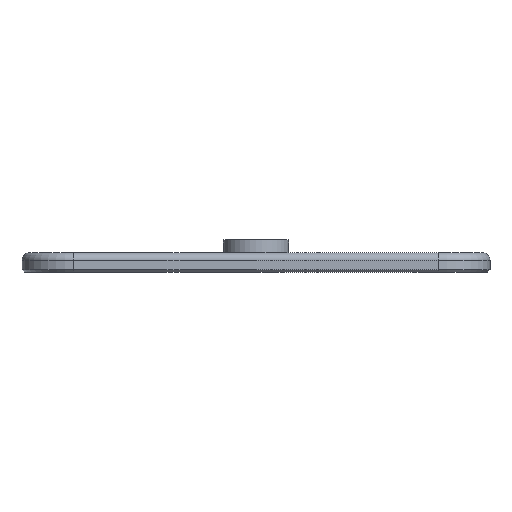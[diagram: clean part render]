
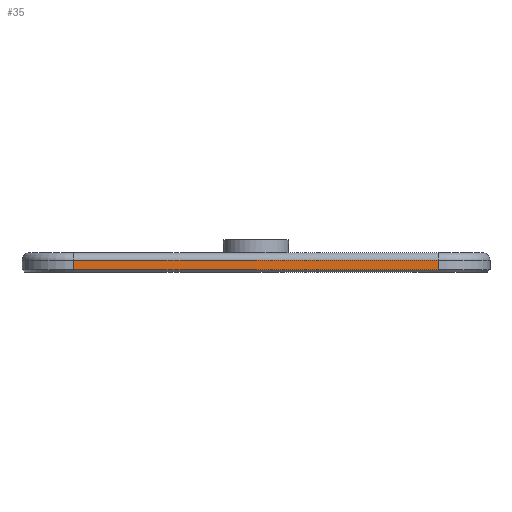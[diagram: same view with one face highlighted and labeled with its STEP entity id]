
A CAD part, left-side view. The second image highlights one B-rep face of the part: STEP entity #35.
In plain terms, the highlighted planar face has unit normal (-1, 0, 0).
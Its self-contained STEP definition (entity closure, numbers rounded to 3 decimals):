
#35 = ADVANCED_FACE('',(#36),#50,.T.);
#36 = FACE_BOUND('',#37,.T.);
#37 = EDGE_LOOP('',(#38,#73,#101,#129));
#38 = ORIENTED_EDGE('',*,*,#39,.T.);
#39 = EDGE_CURVE('',#40,#42,#44,.T.);
#40 = VERTEX_POINT('',#41);
#41 = CARTESIAN_POINT('',(-18.,-14.,0.2));
#42 = VERTEX_POINT('',#43);
#43 = CARTESIAN_POINT('',(-18.,-14.,0.9));
#44 = SURFACE_CURVE('',#45,(#49,#61),.PCURVE_S1.);
#45 = LINE('',#46,#47);
#46 = CARTESIAN_POINT('',(-18.,-14.,0.));
#47 = VECTOR('',#48,1.);
#48 = DIRECTION('',(0.,0.,1.));
#49 = PCURVE('',#50,#55);
#50 = PLANE('',#51);
#51 = AXIS2_PLACEMENT_3D('',#52,#53,#54);
#52 = CARTESIAN_POINT('',(-18.,-14.,0.));
#53 = DIRECTION('',(-1.,0.,0.));
#54 = DIRECTION('',(0.,1.,0.));
#55 = DEFINITIONAL_REPRESENTATION('',(#56),#60);
#56 = LINE('',#57,#58);
#57 = CARTESIAN_POINT('',(0.,0.));
#58 = VECTOR('',#59,1.);
#59 = DIRECTION('',(0.,-1.));
#60 = ( GEOMETRIC_REPRESENTATION_CONTEXT(2) 
PARAMETRIC_REPRESENTATION_CONTEXT() REPRESENTATION_CONTEXT('2D SPACE',''
  ) );
#61 = PCURVE('',#62,#67);
#62 = CYLINDRICAL_SURFACE('',#63,4.);
#63 = AXIS2_PLACEMENT_3D('',#64,#65,#66);
#64 = CARTESIAN_POINT('',(-14.,-14.,0.));
#65 = DIRECTION('',(-0.,-0.,-1.));
#66 = DIRECTION('',(1.,0.,0.));
#67 = DEFINITIONAL_REPRESENTATION('',(#68),#72);
#68 = LINE('',#69,#70);
#69 = CARTESIAN_POINT('',(-3.142,0.));
#70 = VECTOR('',#71,1.);
#71 = DIRECTION('',(-0.,-1.));
#72 = ( GEOMETRIC_REPRESENTATION_CONTEXT(2) 
PARAMETRIC_REPRESENTATION_CONTEXT() REPRESENTATION_CONTEXT('2D SPACE',''
  ) );
#73 = ORIENTED_EDGE('',*,*,#74,.T.);
#74 = EDGE_CURVE('',#42,#75,#77,.T.);
#75 = VERTEX_POINT('',#76);
#76 = CARTESIAN_POINT('',(-18.,14.,0.9));
#77 = SURFACE_CURVE('',#78,(#82,#89),.PCURVE_S1.);
#78 = LINE('',#79,#80);
#79 = CARTESIAN_POINT('',(-18.,-14.,0.9));
#80 = VECTOR('',#81,1.);
#81 = DIRECTION('',(0.,1.,0.));
#82 = PCURVE('',#50,#83);
#83 = DEFINITIONAL_REPRESENTATION('',(#84),#88);
#84 = LINE('',#85,#86);
#85 = CARTESIAN_POINT('',(0.,-0.9));
#86 = VECTOR('',#87,1.);
#87 = DIRECTION('',(1.,0.));
#88 = ( GEOMETRIC_REPRESENTATION_CONTEXT(2) 
PARAMETRIC_REPRESENTATION_CONTEXT() REPRESENTATION_CONTEXT('2D SPACE',''
  ) );
#89 = PCURVE('',#90,#95);
#90 = CYLINDRICAL_SURFACE('',#91,0.6);
#91 = AXIS2_PLACEMENT_3D('',#92,#93,#94);
#92 = CARTESIAN_POINT('',(-17.4,-14.,0.9));
#93 = DIRECTION('',(0.,1.,0.));
#94 = DIRECTION('',(-1.,0.,0.));
#95 = DEFINITIONAL_REPRESENTATION('',(#96),#100);
#96 = LINE('',#97,#98);
#97 = CARTESIAN_POINT('',(0.,0.));
#98 = VECTOR('',#99,1.);
#99 = DIRECTION('',(0.,1.));
#100 = ( GEOMETRIC_REPRESENTATION_CONTEXT(2) 
PARAMETRIC_REPRESENTATION_CONTEXT() REPRESENTATION_CONTEXT('2D SPACE',''
  ) );
#101 = ORIENTED_EDGE('',*,*,#102,.F.);
#102 = EDGE_CURVE('',#103,#75,#105,.T.);
#103 = VERTEX_POINT('',#104);
#104 = CARTESIAN_POINT('',(-18.,14.,0.2));
#105 = SURFACE_CURVE('',#106,(#110,#117),.PCURVE_S1.);
#106 = LINE('',#107,#108);
#107 = CARTESIAN_POINT('',(-18.,14.,0.));
#108 = VECTOR('',#109,1.);
#109 = DIRECTION('',(0.,0.,1.));
#110 = PCURVE('',#50,#111);
#111 = DEFINITIONAL_REPRESENTATION('',(#112),#116);
#112 = LINE('',#113,#114);
#113 = CARTESIAN_POINT('',(28.,0.));
#114 = VECTOR('',#115,1.);
#115 = DIRECTION('',(0.,-1.));
#116 = ( GEOMETRIC_REPRESENTATION_CONTEXT(2) 
PARAMETRIC_REPRESENTATION_CONTEXT() REPRESENTATION_CONTEXT('2D SPACE',''
  ) );
#117 = PCURVE('',#118,#123);
#118 = CYLINDRICAL_SURFACE('',#119,4.);
#119 = AXIS2_PLACEMENT_3D('',#120,#121,#122);
#120 = CARTESIAN_POINT('',(-14.,14.,0.));
#121 = DIRECTION('',(-0.,-0.,-1.));
#122 = DIRECTION('',(1.,0.,0.));
#123 = DEFINITIONAL_REPRESENTATION('',(#124),#128);
#124 = LINE('',#125,#126);
#125 = CARTESIAN_POINT('',(-3.142,0.));
#126 = VECTOR('',#127,1.);
#127 = DIRECTION('',(-0.,-1.));
#128 = ( GEOMETRIC_REPRESENTATION_CONTEXT(2) 
PARAMETRIC_REPRESENTATION_CONTEXT() REPRESENTATION_CONTEXT('2D SPACE',''
  ) );
#129 = ORIENTED_EDGE('',*,*,#130,.F.);
#130 = EDGE_CURVE('',#40,#103,#131,.T.);
#131 = SURFACE_CURVE('',#132,(#136,#143),.PCURVE_S1.);
#132 = LINE('',#133,#134);
#133 = CARTESIAN_POINT('',(-18.,-14.,0.2));
#134 = VECTOR('',#135,1.);
#135 = DIRECTION('',(0.,1.,0.));
#136 = PCURVE('',#50,#137);
#137 = DEFINITIONAL_REPRESENTATION('',(#138),#142);
#138 = LINE('',#139,#140);
#139 = CARTESIAN_POINT('',(0.,-0.2));
#140 = VECTOR('',#141,1.);
#141 = DIRECTION('',(1.,0.));
#142 = ( GEOMETRIC_REPRESENTATION_CONTEXT(2) 
PARAMETRIC_REPRESENTATION_CONTEXT() REPRESENTATION_CONTEXT('2D SPACE',''
  ) );
#143 = PCURVE('',#144,#149);
#144 = PLANE('',#145);
#145 = AXIS2_PLACEMENT_3D('',#146,#147,#148);
#146 = CARTESIAN_POINT('',(-17.9,-14.,0.1));
#147 = DIRECTION('',(0.707,0.,0.707)
  );
#148 = DIRECTION('',(0.,-1.,0.));
#149 = DEFINITIONAL_REPRESENTATION('',(#150),#154);
#150 = LINE('',#151,#152);
#151 = CARTESIAN_POINT('',(-0.,-0.141));
#152 = VECTOR('',#153,1.);
#153 = DIRECTION('',(-1.,0.));
#154 = ( GEOMETRIC_REPRESENTATION_CONTEXT(2) 
PARAMETRIC_REPRESENTATION_CONTEXT() REPRESENTATION_CONTEXT('2D SPACE',''
  ) );
